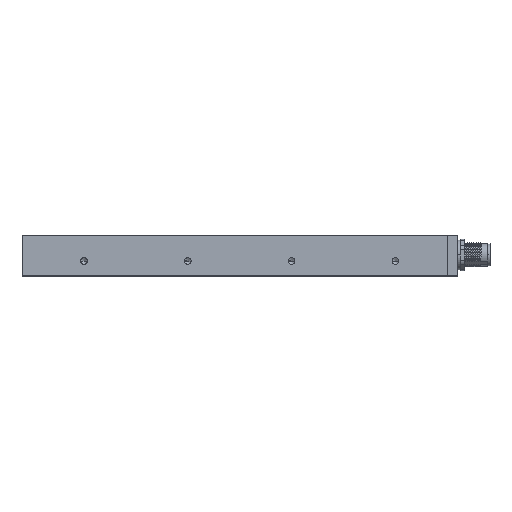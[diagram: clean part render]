
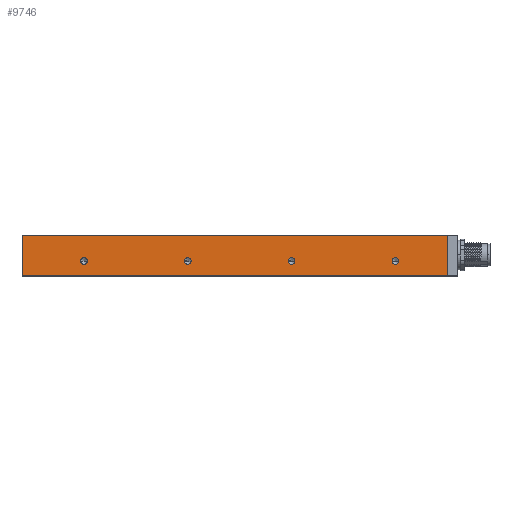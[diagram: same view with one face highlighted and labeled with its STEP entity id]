
A CAD part, left-side view. The second image highlights one B-rep face of the part: STEP entity #9746.
In plain terms, the highlighted planar face has unit normal (-1, 0, 0).
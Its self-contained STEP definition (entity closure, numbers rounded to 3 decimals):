
#236 = VERTEX_POINT ( 'NONE', #7545 ) ;
#438 = DIRECTION ( 'NONE',  ( 0., 0., 1. ) ) ;
#514 = CARTESIAN_POINT ( 'NONE',  ( 0., 12.5, -129.15 ) ) ;
#1882 = ORIENTED_EDGE ( 'NONE', *, *, #26219, .T. ) ;
#2136 = EDGE_CURVE ( 'NONE', #2152, #14080, #26412, .T. ) ;
#2148 = AXIS2_PLACEMENT_3D ( 'NONE', #22135, #6875, #24691 ) ;
#2152 = VERTEX_POINT ( 'NONE', #23355 ) ;
#2500 = CARTESIAN_POINT ( 'NONE',  ( 0., 12.5, -176.85 ) ) ;
#2517 = CARTESIAN_POINT ( 'NONE',  ( 0., 0., -204. ) ) ;
#2659 = CARTESIAN_POINT ( 'NONE',  ( 0., 12.5, -78.15 ) ) ;
#2798 = CARTESIAN_POINT ( 'NONE',  ( 0., 19.8, -204. ) ) ;
#2975 = DIRECTION ( 'NONE',  ( 0., 0., 1. ) ) ;
#3376 = CARTESIAN_POINT ( 'NONE',  ( 0., 12.5, -76.5 ) ) ;
#3738 = VECTOR ( 'NONE', #2975, 1000. ) ;
#4146 = CIRCLE ( 'NONE', #16553, 1.65 ) ;
#4560 = VECTOR ( 'NONE', #26356, 1000. ) ;
#5206 = CARTESIAN_POINT ( 'NONE',  ( 0., 12.5, -125.85 ) ) ;
#5269 = ORIENTED_EDGE ( 'NONE', *, *, #2136, .F. ) ;
#5331 = VERTEX_POINT ( 'NONE', #25086 ) ;
#5904 = DIRECTION ( 'NONE',  ( 0., 0., 1. ) ) ;
#5961 = VERTEX_POINT ( 'NONE', #2659 ) ;
#5975 = VERTEX_POINT ( 'NONE', #12877 ) ;
#6013 = CARTESIAN_POINT ( 'NONE',  ( 0., -7.071, 5. ) ) ;
#6391 = DIRECTION ( 'NONE',  ( -1., 0., 0. ) ) ;
#6575 = LINE ( 'NONE', #10570, #12567 ) ;
#6875 = DIRECTION ( 'NONE',  ( -1., 0., 0. ) ) ;
#6999 = CARTESIAN_POINT ( 'NONE',  ( 0., 19.8, 0. ) ) ;
#7520 = DIRECTION ( 'NONE',  ( -1., 0., 0. ) ) ;
#7545 = CARTESIAN_POINT ( 'NONE',  ( 0., 12.5, -180.15 ) ) ;
#7627 = VERTEX_POINT ( 'NONE', #2500 ) ;
#8158 = LINE ( 'NONE', #10342, #14966 ) ;
#8349 = CARTESIAN_POINT ( 'NONE',  ( 0., 19.8, 5. ) ) ;
#8454 = CARTESIAN_POINT ( 'NONE',  ( 0., 12.5, -76.5 ) ) ;
#8580 = CARTESIAN_POINT ( 'NONE',  ( 0., 0., 5. ) ) ;
#9139 = VERTEX_POINT ( 'NONE', #514 ) ;
#9288 = DIRECTION ( 'NONE',  ( -1., 0., 0. ) ) ;
#9429 = FACE_BOUND ( 'NONE', #16082, .T. ) ;
#9435 = DIRECTION ( 'NONE',  ( -1., 0., 0. ) ) ;
#9705 = AXIS2_PLACEMENT_3D ( 'NONE', #22779, #7520, #25322 ) ;
#9746 = ADVANCED_FACE ( 'NONE', ( #22167, #9429, #16229, #28938, #15422 ), #16909, .T. ) ;
#9754 = AXIS2_PLACEMENT_3D ( 'NONE', #21650, #6391, #24198 ) ;
#10130 = DIRECTION ( 'NONE',  ( 0., 0., -1. ) ) ;
#10342 = CARTESIAN_POINT ( 'NONE',  ( 0., 19.8, -204. ) ) ;
#10570 = CARTESIAN_POINT ( 'NONE',  ( 0., 19.8, -204. ) ) ;
#11016 = DIRECTION ( 'NONE',  ( 0., 0., 1. ) ) ;
#12132 = EDGE_CURVE ( 'NONE', #31480, #9139, #30442, .T. ) ;
#12331 = EDGE_CURVE ( 'NONE', #5331, #5961, #14519, .T. ) ;
#12527 = EDGE_CURVE ( 'NONE', #14080, #2152, #19276, .T. ) ;
#12567 = VECTOR ( 'NONE', #28473, 1000. ) ;
#12613 = AXIS2_PLACEMENT_3D ( 'NONE', #13235, #31035, #15809 ) ;
#12706 = VERTEX_POINT ( 'NONE', #8349 ) ;
#12712 = EDGE_CURVE ( 'NONE', #5961, #5331, #4146, .T. ) ;
#12877 = CARTESIAN_POINT ( 'NONE',  ( 0., 0., -204. ) ) ;
#13235 = CARTESIAN_POINT ( 'NONE',  ( 0., 12.5, -25.5 ) ) ;
#13298 = EDGE_CURVE ( 'NONE', #5975, #23849, #30791, .T. ) ;
#13659 = VERTEX_POINT ( 'NONE', #6999 ) ;
#14080 = VERTEX_POINT ( 'NONE', #28807 ) ;
#14519 = CIRCLE ( 'NONE', #15472, 1.65 ) ;
#14966 = VECTOR ( 'NONE', #10130, 1000. ) ;
#15422 = FACE_OUTER_BOUND ( 'NONE', #16691, .T. ) ;
#15472 = AXIS2_PLACEMENT_3D ( 'NONE', #8454, #26240, #11016 ) ;
#15719 = DIRECTION ( 'NONE',  ( -1., 0., 0. ) ) ;
#15809 = DIRECTION ( 'NONE',  ( 0., 0., 1. ) ) ;
#15822 = VECTOR ( 'NONE', #17765, 1000. ) ;
#16082 = EDGE_LOOP ( 'NONE', ( #17618, #19413 ) ) ;
#16190 = EDGE_LOOP ( 'NONE', ( #28329, #5269 ) ) ;
#16229 = FACE_BOUND ( 'NONE', #31097, .T. ) ;
#16553 = AXIS2_PLACEMENT_3D ( 'NONE', #3376, #21146, #5904 ) ;
#16691 = EDGE_LOOP ( 'NONE', ( #1882, #16813, #18701, #26039, #20994 ) ) ;
#16813 = ORIENTED_EDGE ( 'NONE', *, *, #22645, .T. ) ;
#16875 = ORIENTED_EDGE ( 'NONE', *, *, #20924, .F. ) ;
#16909 = PLANE ( 'NONE',  #24452 ) ;
#17618 = ORIENTED_EDGE ( 'NONE', *, *, #12331, .F. ) ;
#17765 = DIRECTION ( 'NONE',  ( 0., -1., 0. ) ) ;
#18315 = CIRCLE ( 'NONE', #23388, 1.65 ) ;
#18435 = LINE ( 'NONE', #6013, #4560 ) ;
#18701 = ORIENTED_EDGE ( 'NONE', *, *, #22452, .T. ) ;
#19276 = CIRCLE ( 'NONE', #9705, 1.65 ) ;
#19413 = ORIENTED_EDGE ( 'NONE', *, *, #12712, .F. ) ;
#20753 = CARTESIAN_POINT ( 'NONE',  ( 0., 0., -204. ) ) ;
#20924 = EDGE_CURVE ( 'NONE', #9139, #31480, #30142, .T. ) ;
#20984 = EDGE_CURVE ( 'NONE', #22465, #5975, #23368, .T. ) ;
#20994 = ORIENTED_EDGE ( 'NONE', *, *, #13298, .T. ) ;
#21146 = DIRECTION ( 'NONE',  ( -1., 0., 0. ) ) ;
#21650 = CARTESIAN_POINT ( 'NONE',  ( 0., 12.5, -178.5 ) ) ;
#22135 = CARTESIAN_POINT ( 'NONE',  ( 0., 12.5, -127.5 ) ) ;
#22167 = FACE_BOUND ( 'NONE', #16190, .T. ) ;
#22298 = CIRCLE ( 'NONE', #9754, 1.65 ) ;
#22452 = EDGE_CURVE ( 'NONE', #13659, #22465, #8158, .T. ) ;
#22465 = VERTEX_POINT ( 'NONE', #2798 ) ;
#22645 = EDGE_CURVE ( 'NONE', #12706, #13659, #6575, .T. ) ;
#22779 = CARTESIAN_POINT ( 'NONE',  ( 0., 12.5, -25.5 ) ) ;
#23227 = EDGE_LOOP ( 'NONE', ( #29625, #26429 ) ) ;
#23355 = CARTESIAN_POINT ( 'NONE',  ( 0., 12.5, -27.15 ) ) ;
#23368 = LINE ( 'NONE', #2517, #15822 ) ;
#23388 = AXIS2_PLACEMENT_3D ( 'NONE', #24533, #9288, #27076 ) ;
#23849 = VERTEX_POINT ( 'NONE', #8580 ) ;
#24198 = DIRECTION ( 'NONE',  ( 0., 0., 1. ) ) ;
#24452 = AXIS2_PLACEMENT_3D ( 'NONE', #24670, #9435, #27228 ) ;
#24533 = CARTESIAN_POINT ( 'NONE',  ( 0., 12.5, -178.5 ) ) ;
#24670 = CARTESIAN_POINT ( 'NONE',  ( 0., 0., -204. ) ) ;
#24691 = DIRECTION ( 'NONE',  ( 0., 0., 1. ) ) ;
#25086 = CARTESIAN_POINT ( 'NONE',  ( 0., 12.5, -74.85 ) ) ;
#25322 = DIRECTION ( 'NONE',  ( 0., 0., 1. ) ) ;
#26039 = ORIENTED_EDGE ( 'NONE', *, *, #20984, .T. ) ;
#26219 = EDGE_CURVE ( 'NONE', #23849, #12706, #18435, .T. ) ;
#26240 = DIRECTION ( 'NONE',  ( -1., 0., 0. ) ) ;
#26356 = DIRECTION ( 'NONE',  ( 0., 1., 0. ) ) ;
#26412 = CIRCLE ( 'NONE', #12613, 1.65 ) ;
#26429 = ORIENTED_EDGE ( 'NONE', *, *, #30009, .F. ) ;
#27076 = DIRECTION ( 'NONE',  ( 0., 0., 1. ) ) ;
#27228 = DIRECTION ( 'NONE',  ( 0., 0., 1. ) ) ;
#28329 = ORIENTED_EDGE ( 'NONE', *, *, #12527, .F. ) ;
#28473 = DIRECTION ( 'NONE',  ( 0., 0., -1. ) ) ;
#28807 = CARTESIAN_POINT ( 'NONE',  ( 0., 12.5, -23.85 ) ) ;
#28938 = FACE_BOUND ( 'NONE', #23227, .T. ) ;
#29625 = ORIENTED_EDGE ( 'NONE', *, *, #29840, .F. ) ;
#29840 = EDGE_CURVE ( 'NONE', #7627, #236, #22298, .T. ) ;
#30009 = EDGE_CURVE ( 'NONE', #236, #7627, #18315, .T. ) ;
#30142 = CIRCLE ( 'NONE', #2148, 1.65 ) ;
#30442 = CIRCLE ( 'NONE', #31445, 1.65 ) ;
#30791 = LINE ( 'NONE', #20753, #3738 ) ;
#30945 = CARTESIAN_POINT ( 'NONE',  ( 0., 12.5, -127.5 ) ) ;
#31035 = DIRECTION ( 'NONE',  ( -1., 0., 0. ) ) ;
#31097 = EDGE_LOOP ( 'NONE', ( #32832, #16875 ) ) ;
#31445 = AXIS2_PLACEMENT_3D ( 'NONE', #30945, #15719, #438 ) ;
#31480 = VERTEX_POINT ( 'NONE', #5206 ) ;
#32832 = ORIENTED_EDGE ( 'NONE', *, *, #12132, .F. ) ;
